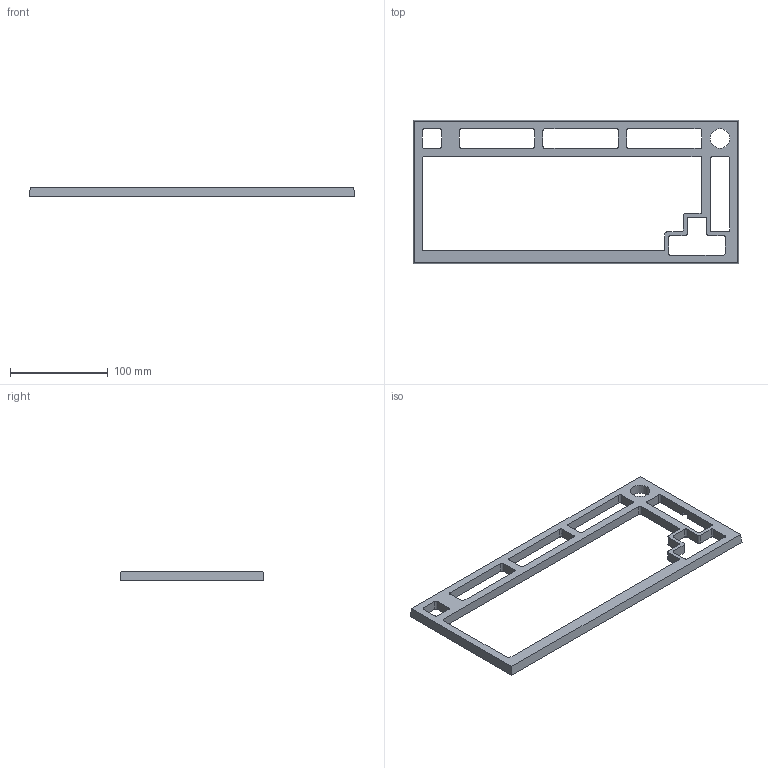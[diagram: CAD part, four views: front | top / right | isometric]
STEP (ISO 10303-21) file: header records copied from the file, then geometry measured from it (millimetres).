
FILE_DESCRIPTION(('HOOPS Exchange Step'),'2;1');
FILE_NAME('/Users/carl/Library/Containers/com.shapr3d.shapr/Data/tmp/export/temp_export','2026-10-19T18:25:26+02:00',('carl'),('Shapr3D Limited'),'HOOPS Exchange 2026.3','Shapr3D','Authorized');
FILE_SCHEMA( ('AP242_MANAGED_MODEL_BASED_3D_ENGINEERING_MIM_LF {1 0 10303 442 1 1 4}') );
Length unit declared in the file: millimetre
Products named in the file (1): Top
Bounding box: 333.5 x 147.5 x 10 mm (x, y, z)
Volume: 136530.6 mm3; surface area: 56058.4 mm2
Topology: 1 solids, 1 shells, 92 faces, 268 edges, 182 vertices
Faces by surface type: plane 48, cylinder 44
Full cylindrical faces by diameter (mm): 7.5 x4, 20 x1
Entity records: 3158 total; most frequent: DIRECTION 554, CARTESIAN_POINT 544, ORIENTED_EDGE 536, EDGE_CURVE 268, AXIS2_PLACEMENT_3D 192, VERTEX_POINT 182, VECTOR 170, LINE 170
